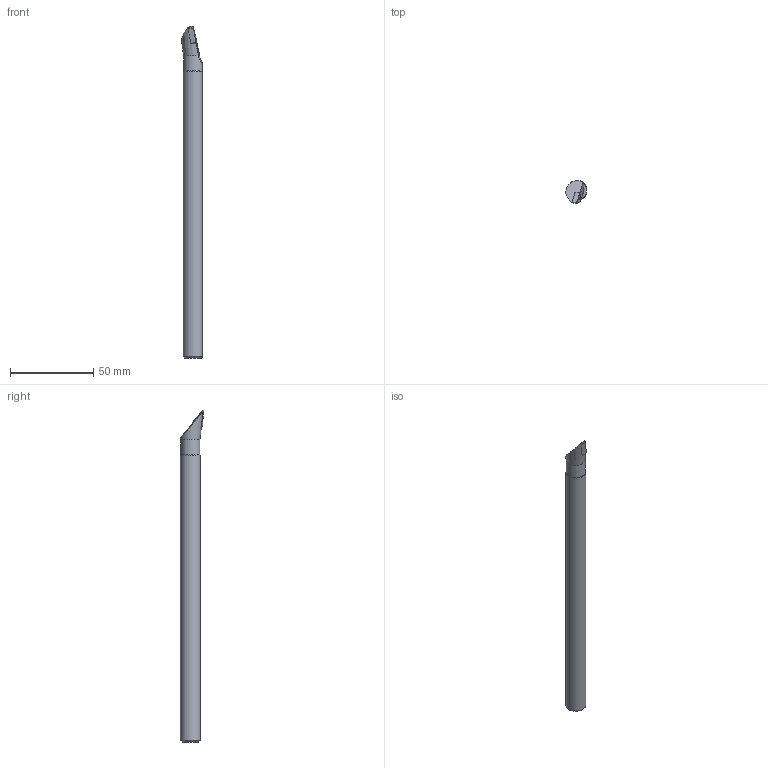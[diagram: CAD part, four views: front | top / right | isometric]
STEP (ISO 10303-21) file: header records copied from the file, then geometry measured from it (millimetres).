
FILE_DESCRIPTION(/* description */ (''),/* implementation_level */ '2;1');
FILE_NAME(/* name */ 'A12R-SVMBR-11-HAAS-.stp',/* time_stamp */ '2021-09-28T12:03:00+09:00',/* author */ (''),/* organization */ (''),/* preprocessor_version */ 'ST-DEVELOPER v11',/* originating_system */ 'SIEMENS UGS NX 6.0',/* authorisation */ '');
FILE_SCHEMA (('CONFIG_CONTROL_DESIGN'));
Length unit declared in the file: millimetre
Products named in the file (1): user19614c0j
Bounding box: 12.26 x 13.97 x 199.94 mm (x, y, z)
Volume: 21137.9 mm3; surface area: 7653.1 mm2
Topology: 2 solids, 2 shells, 20 faces, 49 edges, 33 vertices
Faces by surface type: plane 11, cone 5, cylinder 3, revolution 1
Full cylindrical faces by diameter (mm): 2.8 x1
Entity records: 679 total; most frequent: CARTESIAN_POINT 128, DIRECTION 98, ORIENTED_EDGE 90, EDGE_CURVE 45, AXIS2_PLACEMENT_3D 37, VERTEX_POINT 31, EDGE_LOOP 24, LINE 23
